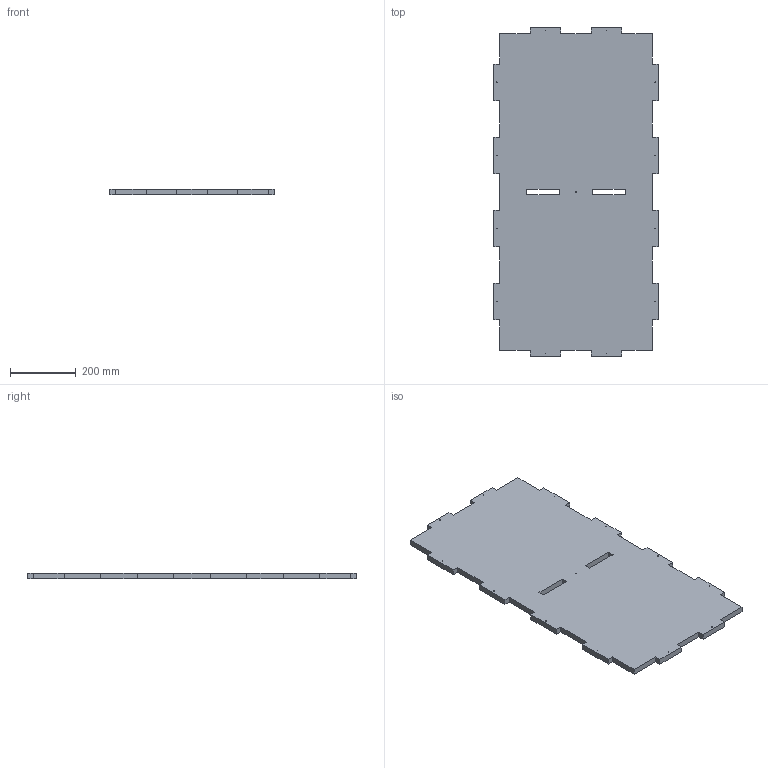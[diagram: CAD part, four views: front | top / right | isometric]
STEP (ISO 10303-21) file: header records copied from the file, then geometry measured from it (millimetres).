
FILE_DESCRIPTION(('Open CASCADE Model'),'2;1');
FILE_NAME('Open CASCADE Shape Model','2026-09-28T10:14:33',('Author'),( 'Open CASCADE'),'Open CASCADE STEP processor 7.9','Open CASCADE 7.9' ,'Unknown');
FILE_SCHEMA(('AUTOMOTIVE_DESIGN { 1 0 10303 214 1 1 1 1 }'));
Length unit declared in the file: millimetre
Products named in the file (1): Open CASCADE STEP translator 7.9 59
Bounding box: 500 x 1000 x 18 mm (x, y, z)
Volume: 8392797.1 mm3; surface area: 1002079.6 mm2
Topology: 1 solids, 1 shells, 75 faces, 219 edges, 146 vertices
Faces by surface type: plane 62, cylinder 13
Full cylindrical faces by diameter (mm): 2.5 x13
Entity records: 5376 total; most frequent: CARTESIAN_POINT 879, DIRECTION 835, LINE 605, VECTOR 605, ORIENTED_EDGE 438, PCURVE 438, DEFINITIONAL_REPRESENTATION 438, EDGE_CURVE 219
